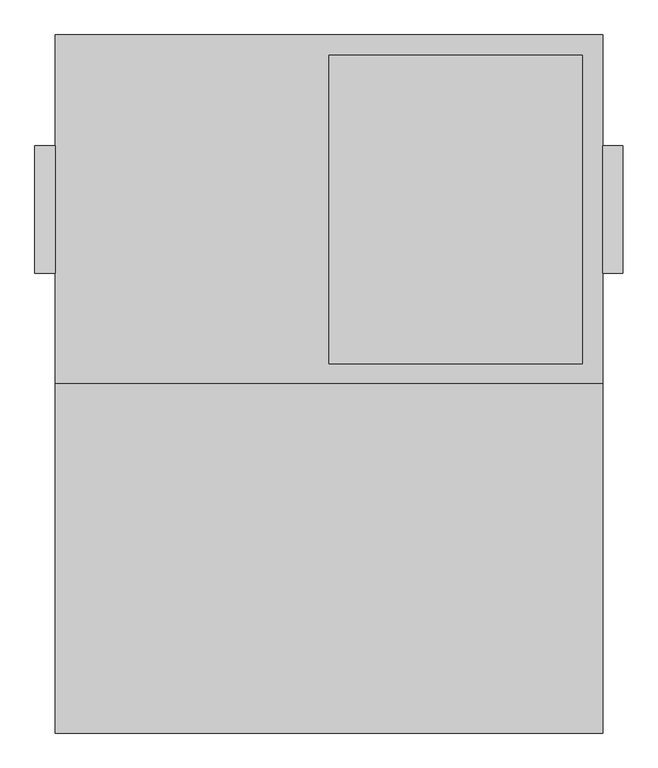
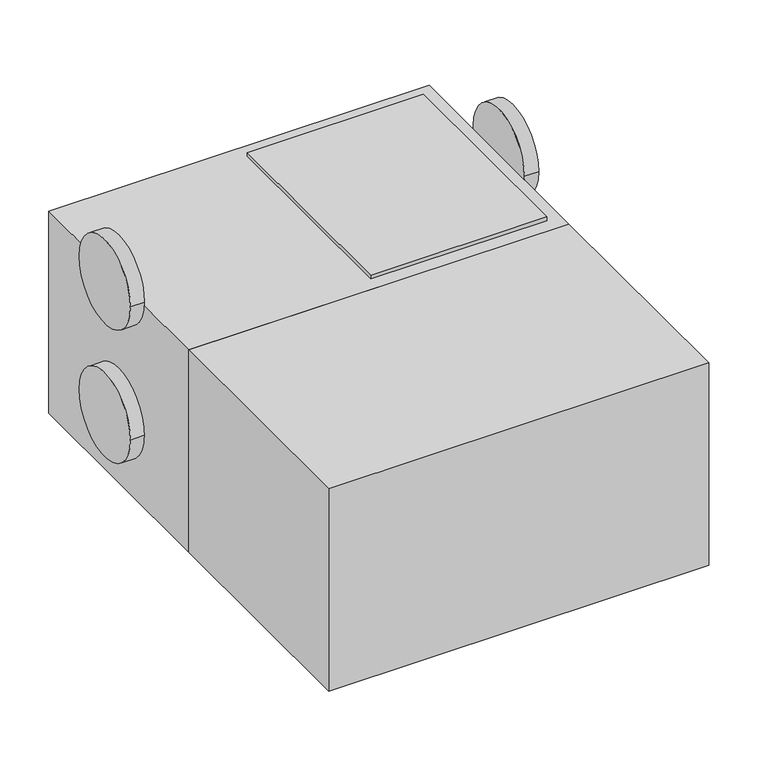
"""IFC4 building model written with IfcOpenShell, lengths in millimetres: proxy geometry, ADSK_КПВУ RIVIERA-EC HRE_круглая : Riviera-EC HRE 2200."""

from ifc_helpers import new_model, si_unit, point, frame, frame_2d, origin, place, context, project, spatial, polyline, circle_curve, trimmed, segment, composite_curve, outline, extrude, faceted_brep, source, transform, mapped, element, save


def mechanical_equipment_9c104b6c(model_context):
    return source(origin(), model_context, "Body", "SolidModel", [
        extrude(outline(polyline([(941.0, -430.0), (941.0, -1290.0), (-409.0, -1290.0), (-409.0, -430.0), (941.0, -430.0)])), frame((0.0, 0.0, 140.0), z_axis=(0.0, 0.0, 1.0), x_axis=(1.0, 0.0, 0.0)), (0.0, 0.0, 1.0), 760.0),
        faceted_brep([(941.0, -430.0, 900.0), (941.0, -430.0, 140.0), (941.0, 430.0, 140.0), (941.0, 430.0, 900.0), (-409.0, -430.0, 900.0), (-409.0, 430.0, 900.0), (-409.0, 430.0, 140.0), (-409.0, -430.0, 140.0), (266.0, 380.0, 900.0), (891.0, 380.0, 900.0), (891.0, -380.0, 900.0), (266.0, -380.0, 900.0), (891.0, 380.0, 914.0), (266.0, 380.0, 914.0), (266.0, -380.0, 914.0), (891.0, -380.0, 914.0)], [[[0, 1, 2, 3]], [[4, 5, 6, 7]], [[1, 0, 4, 7]], [[2, 1, 7, 6]], [[3, 2, 6, 5]], [[0, 3, 5, 4], [8, 9, 10, 11]], [[12, 13, 14, 15]], [[13, 12, 9, 8]], [[14, 13, 8, 11]], [[15, 14, 11, 10]], [[12, 15, 10, 9]]]),
        extrude(outline(composite_curve([segment(trimmed(circle_curve(frame_2d((0.0, 914.0)), 157.5), [point((-157.5, 914.0))], [point((157.5, 914.0))], False, "CARTESIAN"), True, "CONTINUOUS"), segment(trimmed(circle_curve(frame_2d((0.0, 914.0)), 157.5), [point((157.5, 914.0))], [point((-157.5, 914.0))], False, "CARTESIAN"), True, "CONTINUOUS")], self_intersect=False)), frame((-459.0, 0.0, 0.0), z_axis=(1.0, 0.0, 0.0), x_axis=(0.0, 1.0, 0.0)), (0.0, 0.0, 1.0), 50.0),
        extrude(outline(composite_curve([segment(trimmed(circle_curve(frame_2d((0.0, 414.0)), 157.5), [point((-157.5, 414.0))], [point((157.5, 414.0))], False, "CARTESIAN"), True, "CONTINUOUS"), segment(trimmed(circle_curve(frame_2d((0.0, 414.0)), 157.5), [point((157.5, 414.0))], [point((-157.5, 414.0))], False, "CARTESIAN"), True, "CONTINUOUS")], self_intersect=False)), frame((-459.0, 0.0, 0.0), z_axis=(1.0, 0.0, 0.0), x_axis=(0.0, 1.0, 0.0)), (0.0, 0.0, 1.0), 50.0),
        extrude(outline(composite_curve([segment(trimmed(circle_curve(frame_2d((0.0, 914.0)), 157.5), [point((-157.5, 914.0))], [point((157.5, 914.0))], False, "CARTESIAN"), True, "CONTINUOUS"), segment(trimmed(circle_curve(frame_2d((0.0, 914.0)), 157.5), [point((157.5, 914.0))], [point((-157.5, 914.0))], False, "CARTESIAN"), True, "CONTINUOUS")], self_intersect=False)), frame((941.0, 0.0, 0.0), z_axis=(1.0, 0.0, 0.0), x_axis=(0.0, 1.0, 0.0)), (0.0, 0.0, 1.0), 50.0),
        extrude(outline(composite_curve([segment(trimmed(circle_curve(frame_2d((0.0, 414.0)), 157.5), [point((-157.5, 414.0))], [point((157.5, 414.0))], False, "CARTESIAN"), True, "CONTINUOUS"), segment(trimmed(circle_curve(frame_2d((0.0, 414.0)), 157.5), [point((157.5, 414.0))], [point((-157.5, 414.0))], False, "CARTESIAN"), True, "CONTINUOUS")], self_intersect=False)), frame((941.0, 0.0, 0.0), z_axis=(1.0, 0.0, 0.0), x_axis=(0.0, 1.0, 0.0)), (0.0, 0.0, 1.0), 50.0),
        extrude(outline(polyline([(0.0, -229.0), (140.0, -229.0), (140.0, -239.0), (10.0, -239.0), (10.0, -279.0), (140.0, -279.0), (140.0, -289.0), (0.0, -289.0), (0.0, -229.0)])), frame((0.0, -430.0, 0.0), z_axis=(0.0, 1.0, 0.0), x_axis=(0.0, 0.0, 1.0)), (0.0, 0.0, 1.0), 860.0),
        extrude(outline(polyline([(0.0, 821.0), (140.0, 821.0), (140.0, 811.0), (10.0, 811.0), (10.0, 771.0), (140.0, 771.0), (140.0, 761.0), (0.0, 761.0), (0.0, 821.0)])), frame((0.0, -430.0, 0.0), z_axis=(0.0, 1.0, 0.0), x_axis=(0.0, 0.0, 1.0)), (0.0, 0.0, 1.0), 860.0),
    ])


if __name__ == "__main__":
    model = new_model("IFC4")
    model_context = context("Model", 3, world=origin())
    ifc_project = project(units=[si_unit("LENGTHUNIT", "METRE", prefix="MILLI")], contexts=[model_context])
    site = spatial("IfcSite", under=ifc_project)
    building = spatial("IfcBuilding", under=site)
    placement = place(None, origin())
    mechanical_equipment_shape = mechanical_equipment_9c104b6c(model_context)
    element("IfcBuildingElementProxy", 1, Name="ADSK_КПВУ RIVIERA-EC HRE_круглая : Riviera-EC HRE 2200", ObjectType="ADSK_КПВУ RIVIERA-EC HRE_круглая : Riviera-EC HRE 2200", at=placement, inside=building, context=model_context, shape_type="MappedRepresentation", body=[
        mapped(mechanical_equipment_shape, transform((0.0, 0.0, 0.0), x_axis=(1.0, 0.0, 0.0), y_axis=(0.0, 1.0, 0.0), z_axis=(0.0, 0.0, 1.0))),
    ])
    save(model, "model.ifc")
